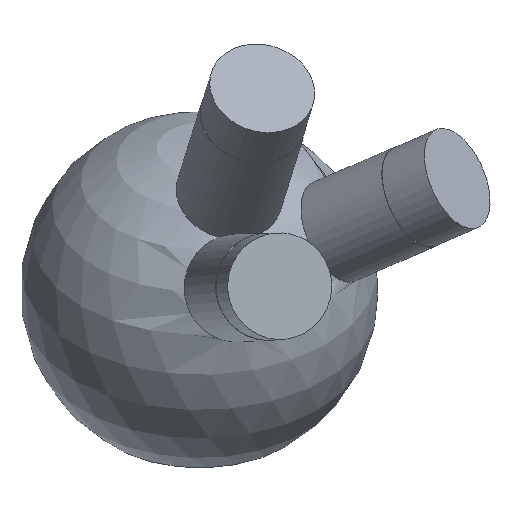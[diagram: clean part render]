
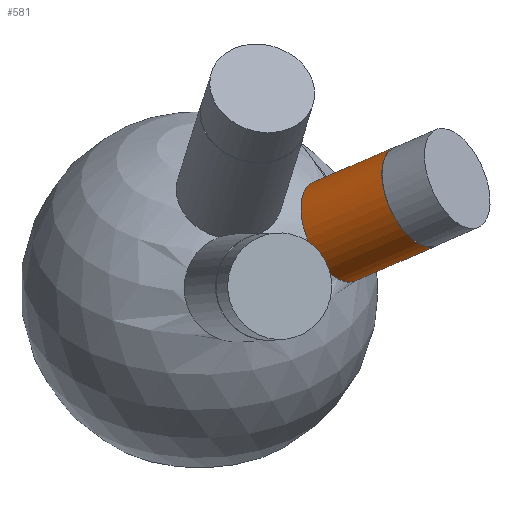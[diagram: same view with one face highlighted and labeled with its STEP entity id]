
A CAD part, isometric view. The second image highlights one B-rep face of the part: STEP entity #581.
In plain terms, the highlighted cylindrical face has radius 6 mm (diameter 12 mm), a full revolution.
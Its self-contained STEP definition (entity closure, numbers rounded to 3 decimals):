
#25 = EDGE_CURVE('',#26,#26,#28,.T.);
#26 = VERTEX_POINT('',#27);
#27 = CARTESIAN_POINT('',(7.609,-17.396,6.284)
  );
#28 = SURFACE_CURVE('',#29,(#34,#115),.PCURVE_S1.);
#29 = CIRCLE('',#30,6.);
#30 = AXIS2_PLACEMENT_3D('',#31,#32,#33);
#31 = CARTESIAN_POINT('',(7.609,-13.637,10.961
    ));
#32 = DIRECTION('',(0.399,-0.715,0.575));
#33 = DIRECTION('',(0.,-0.626,-0.779)
  );
#34 = PCURVE('',#35,#40);
#35 = SPHERICAL_SURFACE('',#36,20.);
#36 = AXIS2_PLACEMENT_3D('',#37,#38,#39);
#37 = CARTESIAN_POINT('',(0.,0.,0.));
#38 = DIRECTION('',(0.,0.,1.));
#39 = DIRECTION('',(1.,0.,-0.));
#40 = DEFINITIONAL_REPRESENTATION('',(#41),#114);
#41 = B_SPLINE_CURVE_WITH_KNOTS('',8,(#42,#43,#44,#45,#46,#47,#48,#49,
    #50,#51,#52,#53,#54,#55,#56,#57,#58,#59,#60,#61,#62,#63,#64,#65,#66,
    #67,#68,#69,#70,#71,#72,#73,#74,#75,#76,#77,#78,#79,#80,#81,#82,#83,
    #84,#85,#86,#87,#88,#89,#90,#91,#92,#93,#94,#95,#96,#97,#98,#99,#100
    ,#101,#102,#103,#104,#105,#106,#107,#108,#109,#110,#111,#112,#113),
  .UNSPECIFIED.,.T.,.F.,(9,7,7,7,7,7,7,7,7,7,9),(0.,0.785,
    1.473,2.074,2.6,3.06,
    3.463,3.816,4.433,5.358,
    6.283),.UNSPECIFIED.);
#42 = CARTESIAN_POINT('',(5.125,0.32));
#43 = CARTESIAN_POINT('',(5.155,0.312));
#44 = CARTESIAN_POINT('',(5.185,0.307));
#45 = CARTESIAN_POINT('',(5.216,0.305));
#46 = CARTESIAN_POINT('',(5.247,0.305));
#47 = CARTESIAN_POINT('',(5.278,0.309));
#48 = CARTESIAN_POINT('',(5.309,0.315));
#49 = CARTESIAN_POINT('',(5.339,0.324));
#50 = CARTESIAN_POINT('',(5.392,0.346));
#51 = CARTESIAN_POINT('',(5.417,0.358));
#52 = CARTESIAN_POINT('',(5.44,0.373));
#53 = CARTESIAN_POINT('',(5.462,0.388));
#54 = CARTESIAN_POINT('',(5.483,0.406));
#55 = CARTESIAN_POINT('',(5.502,0.425));
#56 = CARTESIAN_POINT('',(5.519,0.446));
#57 = CARTESIAN_POINT('',(5.548,0.486));
#58 = CARTESIAN_POINT('',(5.561,0.506));
#59 = CARTESIAN_POINT('',(5.571,0.527));
#60 = CARTESIAN_POINT('',(5.58,0.548));
#61 = CARTESIAN_POINT('',(5.587,0.57));
#62 = CARTESIAN_POINT('',(5.593,0.592));
#63 = CARTESIAN_POINT('',(5.596,0.615));
#64 = CARTESIAN_POINT('',(5.597,0.657));
#65 = CARTESIAN_POINT('',(5.596,0.677));
#66 = CARTESIAN_POINT('',(5.593,0.697));
#67 = CARTESIAN_POINT('',(5.588,0.716));
#68 = CARTESIAN_POINT('',(5.581,0.735));
#69 = CARTESIAN_POINT('',(5.572,0.754));
#70 = CARTESIAN_POINT('',(5.561,0.772));
#71 = CARTESIAN_POINT('',(5.536,0.804));
#72 = CARTESIAN_POINT('',(5.522,0.819));
#73 = CARTESIAN_POINT('',(5.507,0.833));
#74 = CARTESIAN_POINT('',(5.489,0.845));
#75 = CARTESIAN_POINT('',(5.47,0.857));
#76 = CARTESIAN_POINT('',(5.45,0.868));
#77 = CARTESIAN_POINT('',(5.427,0.878));
#78 = CARTESIAN_POINT('',(5.383,0.894));
#79 = CARTESIAN_POINT('',(5.361,0.901));
#80 = CARTESIAN_POINT('',(5.338,0.906));
#81 = CARTESIAN_POINT('',(5.314,0.911));
#82 = CARTESIAN_POINT('',(5.29,0.914));
#83 = CARTESIAN_POINT('',(5.265,0.916));
#84 = CARTESIAN_POINT('',(5.24,0.917));
#85 = CARTESIAN_POINT('',(5.194,0.916));
#86 = CARTESIAN_POINT('',(5.172,0.915));
#87 = CARTESIAN_POINT('',(5.151,0.913));
#88 = CARTESIAN_POINT('',(5.13,0.91));
#89 = CARTESIAN_POINT('',(5.109,0.907));
#90 = CARTESIAN_POINT('',(5.089,0.902));
#91 = CARTESIAN_POINT('',(5.069,0.897));
#92 = CARTESIAN_POINT('',(5.018,0.88));
#93 = CARTESIAN_POINT('',(4.988,0.867));
#94 = CARTESIAN_POINT('',(4.961,0.852));
#95 = CARTESIAN_POINT('',(4.937,0.835));
#96 = CARTESIAN_POINT('',(4.916,0.816));
#97 = CARTESIAN_POINT('',(4.898,0.797));
#98 = CARTESIAN_POINT('',(4.884,0.776));
#99 = CARTESIAN_POINT('',(4.855,0.722));
#100 = CARTESIAN_POINT('',(4.845,0.688));
#101 = CARTESIAN_POINT('',(4.841,0.653));
#102 = CARTESIAN_POINT('',(4.843,0.617));
#103 = CARTESIAN_POINT('',(4.849,0.583));
#104 = CARTESIAN_POINT('',(4.861,0.549));
#105 = CARTESIAN_POINT('',(4.876,0.516));
#106 = CARTESIAN_POINT('',(4.914,0.456));
#107 = CARTESIAN_POINT('',(4.937,0.427));
#108 = CARTESIAN_POINT('',(4.963,0.401));
#109 = CARTESIAN_POINT('',(4.991,0.378));
#110 = CARTESIAN_POINT('',(5.022,0.358));
#111 = CARTESIAN_POINT('',(5.055,0.342));
#112 = CARTESIAN_POINT('',(5.089,0.329));
#113 = CARTESIAN_POINT('',(5.125,0.32));
#114 = ( GEOMETRIC_REPRESENTATION_CONTEXT(2) 
PARAMETRIC_REPRESENTATION_CONTEXT() REPRESENTATION_CONTEXT('2D SPACE',''
  ) );
#115 = PCURVE('',#116,#121);
#116 = CYLINDRICAL_SURFACE('',#117,6.);
#117 = AXIS2_PLACEMENT_3D('',#118,#119,#120);
#118 = CARTESIAN_POINT('',(0.,0.,0.));
#119 = DIRECTION('',(0.399,-0.715,0.575));
#120 = DIRECTION('',(0.,-0.626,-0.779
    ));
#121 = DEFINITIONAL_REPRESENTATION('',(#122),#126);
#122 = LINE('',#123,#124);
#123 = CARTESIAN_POINT('',(0.,19.079));
#124 = VECTOR('',#125,1.);
#125 = DIRECTION('',(1.,0.));
#126 = ( GEOMETRIC_REPRESENTATION_CONTEXT(2) 
PARAMETRIC_REPRESENTATION_CONTEXT() REPRESENTATION_CONTEXT('2D SPACE',''
  ) );
#581 = ADVANCED_FACE('',(#582),#116,.T.);
#582 = FACE_BOUND('',#583,.T.);
#583 = EDGE_LOOP('',(#584,#607,#634,#635));
#584 = ORIENTED_EDGE('',*,*,#585,.T.);
#585 = EDGE_CURVE('',#26,#586,#588,.T.);
#586 = VERTEX_POINT('',#587);
#587 = CARTESIAN_POINT('',(12.181,-25.589,
    12.87));
#588 = SEAM_CURVE('',#589,(#593,#600),.PCURVE_S1.);
#589 = LINE('',#590,#591);
#590 = CARTESIAN_POINT('',(0.,-3.759,
    -4.677));
#591 = VECTOR('',#592,1.);
#592 = DIRECTION('',(0.399,-0.715,0.575));
#593 = PCURVE('',#116,#594);
#594 = DEFINITIONAL_REPRESENTATION('',(#595),#599);
#595 = LINE('',#596,#597);
#596 = CARTESIAN_POINT('',(6.283,-0.));
#597 = VECTOR('',#598,1.);
#598 = DIRECTION('',(0.,1.));
#599 = ( GEOMETRIC_REPRESENTATION_CONTEXT(2) 
PARAMETRIC_REPRESENTATION_CONTEXT() REPRESENTATION_CONTEXT('2D SPACE',''
  ) );
#600 = PCURVE('',#116,#601);
#601 = DEFINITIONAL_REPRESENTATION('',(#602),#606);
#602 = LINE('',#603,#604);
#603 = CARTESIAN_POINT('',(0.,-0.));
#604 = VECTOR('',#605,1.);
#605 = DIRECTION('',(0.,1.));
#606 = ( GEOMETRIC_REPRESENTATION_CONTEXT(2) 
PARAMETRIC_REPRESENTATION_CONTEXT() REPRESENTATION_CONTEXT('2D SPACE',''
  ) );
#607 = ORIENTED_EDGE('',*,*,#608,.F.);
#608 = EDGE_CURVE('',#586,#586,#609,.T.);
#609 = SURFACE_CURVE('',#610,(#615,#622),.PCURVE_S1.);
#610 = CIRCLE('',#611,6.);
#611 = AXIS2_PLACEMENT_3D('',#612,#613,#614);
#612 = CARTESIAN_POINT('',(12.181,-21.83,
    17.546));
#613 = DIRECTION('',(0.399,-0.715,0.575));
#614 = DIRECTION('',(0.,-0.626,-0.779
    ));
#615 = PCURVE('',#116,#616);
#616 = DEFINITIONAL_REPRESENTATION('',(#617),#621);
#617 = LINE('',#618,#619);
#618 = CARTESIAN_POINT('',(0.,30.542));
#619 = VECTOR('',#620,1.);
#620 = DIRECTION('',(1.,0.));
#621 = ( GEOMETRIC_REPRESENTATION_CONTEXT(2) 
PARAMETRIC_REPRESENTATION_CONTEXT() REPRESENTATION_CONTEXT('2D SPACE',''
  ) );
#622 = PCURVE('',#623,#628);
#623 = PLANE('',#624);
#624 = AXIS2_PLACEMENT_3D('',#625,#626,#627);
#625 = CARTESIAN_POINT('',(12.181,-21.83,
    17.546));
#626 = DIRECTION('',(0.399,-0.715,0.575));
#627 = DIRECTION('',(0.,-0.626,-0.779
    ));
#628 = DEFINITIONAL_REPRESENTATION('',(#629),#633);
#629 = CIRCLE('',#630,6.);
#630 = AXIS2_PLACEMENT_2D('',#631,#632);
#631 = CARTESIAN_POINT('',(0.,0.));
#632 = DIRECTION('',(1.,0.));
#633 = ( GEOMETRIC_REPRESENTATION_CONTEXT(2) 
PARAMETRIC_REPRESENTATION_CONTEXT() REPRESENTATION_CONTEXT('2D SPACE',''
  ) );
#634 = ORIENTED_EDGE('',*,*,#585,.F.);
#635 = ORIENTED_EDGE('',*,*,#25,.T.);
